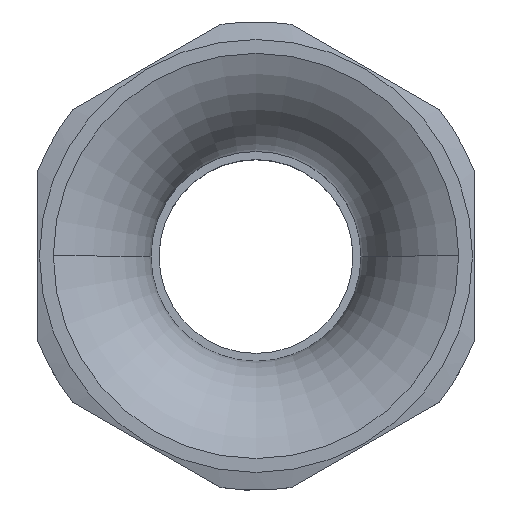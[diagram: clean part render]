
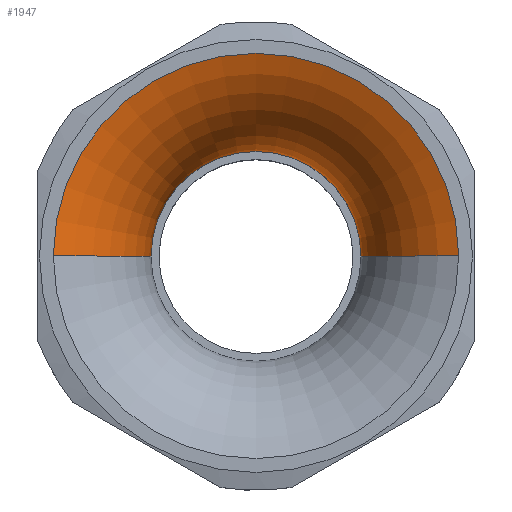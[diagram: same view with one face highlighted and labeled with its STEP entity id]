
A CAD part, top view. The second image highlights one B-rep face of the part: STEP entity #1947.
In plain terms, the highlighted toroidal (fillet/blend) face has major radius 15.5 mm and minor radius 9 mm.
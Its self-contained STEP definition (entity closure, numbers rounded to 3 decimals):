
#18 = CARTESIAN_POINT ( 'NONE',  ( -12.542, 0., 17.5 ) ) ;
#19 = CARTESIAN_POINT ( 'NONE',  ( 12.542, 0., 17.5 ) ) ;
#25 = DIRECTION ( 'NONE',  ( 0., 0., -1. ) ) ;
#26 = DIRECTION ( 'NONE',  ( 0., -1., 0. ) ) ;
#27 = AXIS2_PLACEMENT_3D ( 'NONE', #34, #26, #25 ) ;
#28 = CIRCLE ( 'NONE', #27, 9. ) ;
#34 = CARTESIAN_POINT ( 'NONE',  ( 15.5, 0., 9. ) ) ;
#38 = CARTESIAN_POINT ( 'NONE',  ( 6.5, 0., 9. ) ) ;
#70 = DIRECTION ( 'NONE',  ( 1., 0., 0. ) ) ;
#71 = DIRECTION ( 'NONE',  ( 0., 0., 1. ) ) ;
#72 = CARTESIAN_POINT ( 'NONE',  ( 0., 0., 9. ) ) ;
#73 = AXIS2_PLACEMENT_3D ( 'NONE', #72, #71, #70 ) ;
#74 = CIRCLE ( 'NONE', #73, 6.5 ) ;
#148 = CARTESIAN_POINT ( 'NONE',  ( -6.5, 0., 9. ) ) ;
#166 = DIRECTION ( 'NONE',  ( 1., 0., 0. ) ) ;
#167 = DIRECTION ( 'NONE',  ( 0., 0., 1. ) ) ;
#168 = CARTESIAN_POINT ( 'NONE',  ( 0., 0., 17.5 ) ) ;
#169 = AXIS2_PLACEMENT_3D ( 'NONE', #168, #167, #166 ) ;
#170 = CIRCLE ( 'NONE', #169, 12.542 ) ;
#335 = DIRECTION ( 'NONE',  ( 1., 0., 0. ) ) ;
#336 = DIRECTION ( 'NONE',  ( 0., 0., 1. ) ) ;
#337 = AXIS2_PLACEMENT_3D ( 'NONE', #340, #336, #335 ) ;
#338 = TOROIDAL_SURFACE ( 'NONE', #337, 15.5, 9. ) ;
#340 = CARTESIAN_POINT ( 'NONE',  ( 0., 0., 9. ) ) ;
#341 = FACE_OUTER_BOUND ( 'NONE', #1815, .T. ) ;
#1815 = EDGE_LOOP ( 'NONE', ( #1828, #1845, #1895, #1843 ) ) ;
#1827 = EDGE_CURVE ( 'NONE', #1869, #1894, #2949, .T. ) ;
#1828 = ORIENTED_EDGE ( 'NONE', *, *, #1902, .T. ) ;
#1843 = ORIENTED_EDGE ( 'NONE', *, *, #1865, .F. ) ;
#1845 = ORIENTED_EDGE ( 'NONE', *, *, #1827, .T. ) ;
#1847 = EDGE_CURVE ( 'NONE', #1855, #1894, #74, .T. ) ;
#1855 = VERTEX_POINT ( 'NONE', #38 ) ;
#1865 = EDGE_CURVE ( 'NONE', #1868, #1855, #28, .T. ) ;
#1868 = VERTEX_POINT ( 'NONE', #19 ) ;
#1869 = VERTEX_POINT ( 'NONE', #18 ) ;
#1894 = VERTEX_POINT ( 'NONE', #148 ) ;
#1895 = ORIENTED_EDGE ( 'NONE', *, *, #1847, .F. ) ;
#1902 = EDGE_CURVE ( 'NONE', #1868, #1869, #170, .T. ) ;
#1947 = ADVANCED_FACE ( 'NONE', ( #341 ), #338, .T. ) ;
#2945 = DIRECTION ( 'NONE',  ( -1., 0., 0. ) ) ;
#2946 = DIRECTION ( 'NONE',  ( 0., 1., 0. ) ) ;
#2947 = CARTESIAN_POINT ( 'NONE',  ( -15.5, 0., 9. ) ) ;
#2948 = AXIS2_PLACEMENT_3D ( 'NONE', #2947, #2946, #2945 ) ;
#2949 = CIRCLE ( 'NONE', #2948, 9. ) ;
